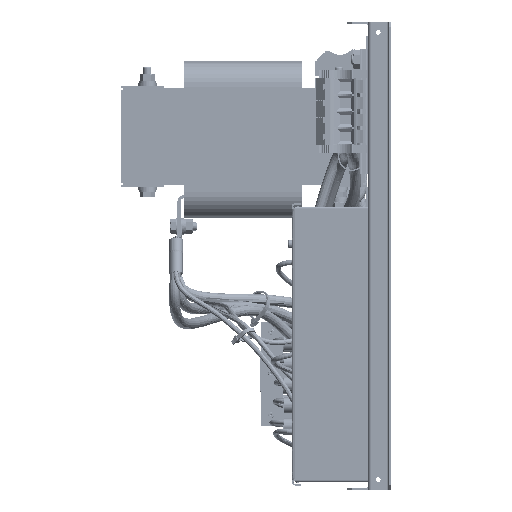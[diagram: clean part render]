
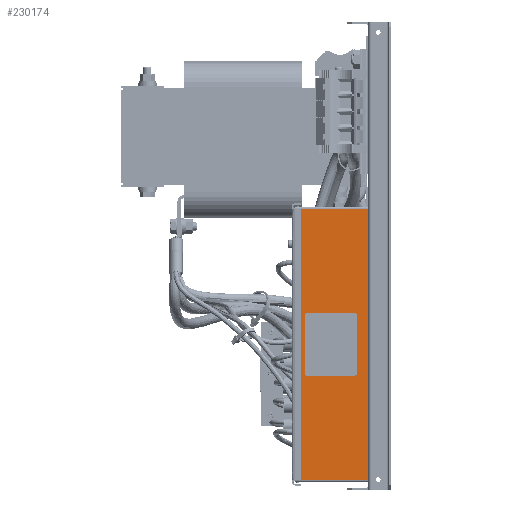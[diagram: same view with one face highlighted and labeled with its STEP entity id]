
A CAD part, left-side view. The second image highlights one B-rep face of the part: STEP entity #230174.
In plain terms, the highlighted planar face has unit normal (-1, 0, 0).
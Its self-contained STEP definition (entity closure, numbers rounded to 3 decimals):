
#73492=DIRECTION('',(0.,0.,1.));
#73493=VECTOR('',#73492,261.);
#73494=CARTESIAN_POINT('',(-309.,0.02,-215.5));
#73495=LINE('',#73494,#73493);
#74001=DIRECTION('',(0.,-1.,0.));
#74002=VECTOR('',#74001,69.98);
#74003=CARTESIAN_POINT('',(-309.,70.,-215.5));
#74004=LINE('',#74003,#74002);
#74005=DIRECTION('',(0.,0.,1.));
#74006=VECTOR('',#74005,261.);
#74007=CARTESIAN_POINT('',(-309.,70.,-215.5));
#74008=LINE('',#74007,#74006);
#74009=DIRECTION('',(0.,-1.,0.));
#74010=VECTOR('',#74009,69.98);
#74011=CARTESIAN_POINT('',(-309.,70.,45.5));
#74012=LINE('',#74011,#74010);
#74013=DIRECTION('',(0.,-1.,0.));
#74014=VECTOR('',#74013,1.894);
#74015=CARTESIAN_POINT('',(-309.,68.5,45.));
#74016=LINE('',#74015,#74014);
#74017=DIRECTION('',(0.,0.,-1.));
#74018=VECTOR('',#74017,260.);
#74019=CARTESIAN_POINT('',(-309.,68.5,45.));
#74020=LINE('',#74019,#74018);
#74021=DIRECTION('',(0.,-1.,0.));
#74022=VECTOR('',#74021,1.894);
#74023=CARTESIAN_POINT('',(-309.,68.5,-215.));
#74024=LINE('',#74023,#74022);
#74025=DIRECTION('',(0.,0.,1.));
#74026=VECTOR('',#74025,260.);
#74027=CARTESIAN_POINT('',(-309.,66.606,-215.));
#74028=LINE('',#74027,#74026);
#74029=CARTESIAN_POINT('',(-309.,58.5,-57.));
#74030=DIRECTION('',(1.,0.,0.));
#74031=DIRECTION('',(0.,1.,0.));
#74032=AXIS2_PLACEMENT_3D('',#74029,#74030,#74031);
#74034=DIRECTION('',(0.,0.,1.));
#74035=VECTOR('',#74034,56.);
#74036=CARTESIAN_POINT('',(-309.,60.5,-113.));
#74037=LINE('',#74036,#74035);
#74038=CARTESIAN_POINT('',(-309.,58.5,-113.));
#74039=DIRECTION('',(1.,0.,0.));
#74040=DIRECTION('',(0.,0.,-1.));
#74041=AXIS2_PLACEMENT_3D('',#74038,#74039,#74040);
#74043=DIRECTION('',(0.,1.,0.));
#74044=VECTOR('',#74043,46.);
#74045=CARTESIAN_POINT('',(-309.,12.5,-115.));
#74046=LINE('',#74045,#74044);
#74047=CARTESIAN_POINT('',(-309.,12.5,-113.));
#74048=DIRECTION('',(1.,0.,0.));
#74049=DIRECTION('',(0.,-1.,0.));
#74050=AXIS2_PLACEMENT_3D('',#74047,#74048,#74049);
#74052=DIRECTION('',(0.,0.,-1.));
#74053=VECTOR('',#74052,56.);
#74054=CARTESIAN_POINT('',(-309.,10.5,-57.));
#74055=LINE('',#74054,#74053);
#74056=CARTESIAN_POINT('',(-309.,12.5,-57.));
#74057=DIRECTION('',(1.,0.,0.));
#74058=DIRECTION('',(0.,0.,1.));
#74059=AXIS2_PLACEMENT_3D('',#74056,#74057,#74058);
#74061=DIRECTION('',(0.,-1.,0.));
#74062=VECTOR('',#74061,46.);
#74063=CARTESIAN_POINT('',(-309.,58.5,-55.));
#74064=LINE('',#74063,#74062);
#119326=CARTESIAN_POINT('',(-309.,60.5,-57.));
#119327=VERTEX_POINT('',#119326);
#119328=CARTESIAN_POINT('',(-309.,58.5,-55.));
#119329=VERTEX_POINT('',#119328);
#119330=CARTESIAN_POINT('',(-309.,12.5,-55.));
#119331=VERTEX_POINT('',#119330);
#119332=CARTESIAN_POINT('',(-309.,10.5,-57.));
#119333=VERTEX_POINT('',#119332);
#119334=CARTESIAN_POINT('',(-309.,10.5,-113.));
#119335=VERTEX_POINT('',#119334);
#119336=CARTESIAN_POINT('',(-309.,12.5,-115.));
#119337=VERTEX_POINT('',#119336);
#119338=CARTESIAN_POINT('',(-309.,58.5,-115.));
#119339=VERTEX_POINT('',#119338);
#119340=CARTESIAN_POINT('',(-309.,60.5,-113.));
#119341=VERTEX_POINT('',#119340);
#119356=CARTESIAN_POINT('',(-309.,70.,-215.5));
#119357=VERTEX_POINT('',#119356);
#119358=CARTESIAN_POINT('',(-309.,0.02,-215.5));
#119359=VERTEX_POINT('',#119358);
#119376=CARTESIAN_POINT('',(-309.,0.02,45.5));
#119377=VERTEX_POINT('',#119376);
#119378=CARTESIAN_POINT('',(-309.,70.,45.5));
#119379=VERTEX_POINT('',#119378);
#119481=CARTESIAN_POINT('',(-309.,68.5,45.));
#119482=CARTESIAN_POINT('',(-309.,66.606,45.));
#119483=VERTEX_POINT('',#119481);
#119484=VERTEX_POINT('',#119482);
#119485=CARTESIAN_POINT('',(-309.,68.5,-215.));
#119486=CARTESIAN_POINT('',(-309.,66.606,-215.));
#119487=VERTEX_POINT('',#119485);
#119488=VERTEX_POINT('',#119486);
#230135=CARTESIAN_POINT('',(-309.,36.,-217.));
#230136=DIRECTION('',(-1.,0.,0.));
#230137=DIRECTION('',(0.,1.,0.));
#230138=AXIS2_PLACEMENT_3D('',#230135,#230136,#230137);
#230139=PLANE('',#230138);
#230140=ORIENTED_EDGE('',*,*,#229349,.F.);
#230141=ORIENTED_EDGE('',*,*,#229538,.T.);
#230142=ORIENTED_EDGE('',*,*,#230088,.T.);
#230143=ORIENTED_EDGE('',*,*,#229423,.F.);
#230144=EDGE_LOOP('',(#230140,#230141,#230142,#230143));
#230145=FACE_OUTER_BOUND('',#230144,.F.);
#230147=ORIENTED_EDGE('',*,*,#230146,.F.);
#230149=ORIENTED_EDGE('',*,*,#230148,.T.);
#230151=ORIENTED_EDGE('',*,*,#230150,.T.);
#230153=ORIENTED_EDGE('',*,*,#230152,.T.);
#230154=EDGE_LOOP('',(#230147,#230149,#230151,#230153));
#230155=FACE_BOUND('',#230154,.F.);
#230157=ORIENTED_EDGE('',*,*,#230156,.F.);
#230159=ORIENTED_EDGE('',*,*,#230158,.F.);
#230161=ORIENTED_EDGE('',*,*,#230160,.F.);
#230163=ORIENTED_EDGE('',*,*,#230162,.F.);
#230165=ORIENTED_EDGE('',*,*,#230164,.F.);
#230167=ORIENTED_EDGE('',*,*,#230166,.F.);
#230169=ORIENTED_EDGE('',*,*,#230168,.F.);
#230171=ORIENTED_EDGE('',*,*,#230170,.F.);
#230172=EDGE_LOOP('',(#230157,#230159,#230161,#230163,#230165,#230167,#230169,
#230171));
#230173=FACE_BOUND('',#230172,.F.);
#74033=CIRCLE('',#74032,2.);
#74042=CIRCLE('',#74041,2.);
#74051=CIRCLE('',#74050,2.);
#74060=CIRCLE('',#74059,2.);
#229349=EDGE_CURVE('',#119357,#119359,#74004,.T.);
#229423=EDGE_CURVE('',#119359,#119377,#73495,.T.);
#229538=EDGE_CURVE('',#119357,#119379,#74008,.T.);
#230088=EDGE_CURVE('',#119379,#119377,#74012,.T.);
#230146=EDGE_CURVE('',#119483,#119484,#74016,.T.);
#230148=EDGE_CURVE('',#119483,#119487,#74020,.T.);
#230150=EDGE_CURVE('',#119487,#119488,#74024,.T.);
#230152=EDGE_CURVE('',#119488,#119484,#74028,.T.);
#230156=EDGE_CURVE('',#119327,#119329,#74033,.T.);
#230158=EDGE_CURVE('',#119341,#119327,#74037,.T.);
#230160=EDGE_CURVE('',#119339,#119341,#74042,.T.);
#230162=EDGE_CURVE('',#119337,#119339,#74046,.T.);
#230164=EDGE_CURVE('',#119335,#119337,#74051,.T.);
#230166=EDGE_CURVE('',#119333,#119335,#74055,.T.);
#230168=EDGE_CURVE('',#119331,#119333,#74060,.T.);
#230170=EDGE_CURVE('',#119329,#119331,#74064,.T.);
#230174=ADVANCED_FACE('',(#230145,#230155,#230173),#230139,.T.);
